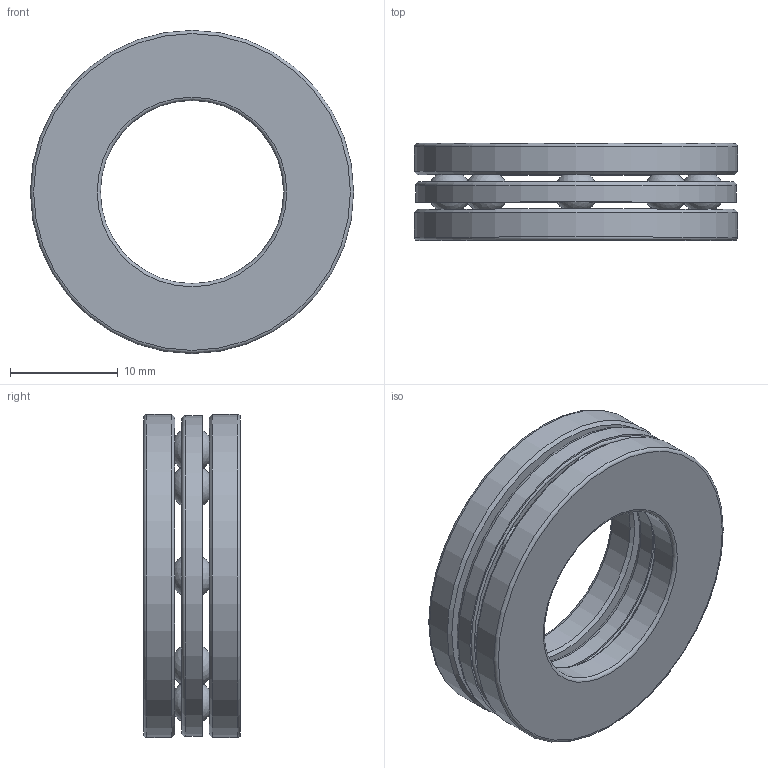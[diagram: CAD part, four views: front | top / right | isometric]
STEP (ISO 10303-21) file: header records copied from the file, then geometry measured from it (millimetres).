
FILE_DESCRIPTION(/* description */ (''),/* implementation_level */ '2;1');
FILE_NAME(/* name */ 'D:\moje\parametrické\511--\511--_\51103.stp',/* time_stamp */ '2016-08-17T07:18:39+02:00',/* author */ ('OUBALASKO'),/* organization */ (''),/* preprocessor_version */ 'ST-DEVELOPER v15.6',/* originating_system */ 'Autodesk Inventor 2015',/* authorisation */ '');
FILE_SCHEMA (('AUTOMOTIVE_DESIGN { 1 0 10303 214 3 1 1 }'));
Length unit declared in the file: millimetre
Products named in the file (7): 51103-HK; 51103-TK; 51103-ball; 51103-cage01; 51103-cage02; 51103-cage; 51103
Assembly tree (13 placements, depth 3):
  51103
    51103-HK
    51103-TK
    51103-ball  x8
    51103-cage
      51103-cage01
      51103-cage02
Bounding box: 30 x 9 x 30 mm (x, y, z)
Volume: 3021.1 mm3; surface area: 5140.4 mm2
Topology: 12 solids, 12 shells, 68 faces, 130 edges, 92 vertices
Faces by surface type: sphere 24, plane 14, torus 14, cylinder 12, cone 4
Full cylindrical faces by diameter (mm): 17 x1, 18 x1, 18.228 x1, 18.561 x1, 18.761 x1, 19.095 x1, 28.905 x1, 29.239 x1, 29.439 x1, 29.772 x1, 30 x2
Entity records: 1672 total; most frequent: DIRECTION 316, CARTESIAN_POINT 236, AXIS2_PLACEMENT_3D 158, ORIENTED_EDGE 154, EDGE_LOOP 153, FACE_BOUND 92, VERTEX_POINT 78, CIRCLE 77
